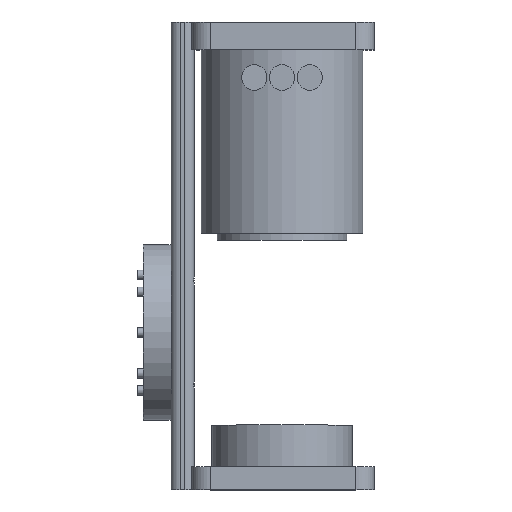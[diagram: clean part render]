
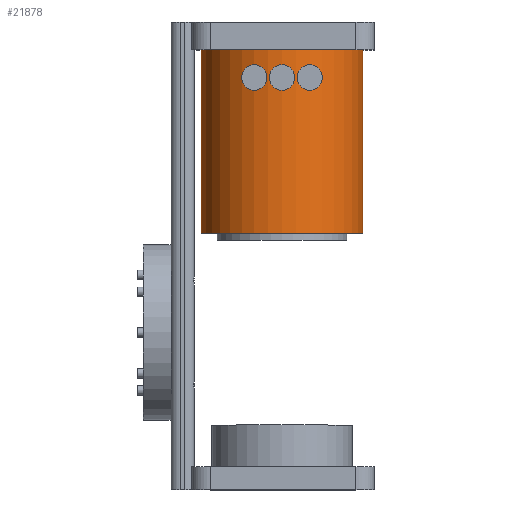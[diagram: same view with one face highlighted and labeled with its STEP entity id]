
A CAD part, top view. The second image highlights one B-rep face of the part: STEP entity #21878.
In plain terms, the highlighted cylindrical face has radius 35 mm (diameter 70 mm), a full revolution.
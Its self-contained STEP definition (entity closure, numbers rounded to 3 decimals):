
#21878 = ADVANCED_FACE('',(#21879),#21892,.T.);
#21879 = FACE_BOUND('',#21880,.T.);
#21880 = EDGE_LOOP('',(#21881,#21915,#21938,#21965));
#21881 = ORIENTED_EDGE('',*,*,#21882,.F.);
#21882 = EDGE_CURVE('',#21883,#21883,#21885,.T.);
#21883 = VERTEX_POINT('',#21884);
#21884 = CARTESIAN_POINT('',(400.,43.,735.));
#21885 = SURFACE_CURVE('',#21886,(#21891,#21903),.PCURVE_S1.);
#21886 = CIRCLE('',#21887,35.);
#21887 = AXIS2_PLACEMENT_3D('',#21888,#21889,#21890);
#21888 = CARTESIAN_POINT('',(400.,43.,700.));
#21889 = DIRECTION('',(0.,-1.,0.));
#21890 = DIRECTION('',(0.,0.,1.));
#21891 = PCURVE('',#21892,#21897);
#21892 = CYLINDRICAL_SURFACE('',#21893,35.);
#21893 = AXIS2_PLACEMENT_3D('',#21894,#21895,#21896);
#21894 = CARTESIAN_POINT('',(400.,122.3,700.));
#21895 = DIRECTION('',(0.,-1.,0.));
#21896 = DIRECTION('',(0.,0.,1.));
#21897 = DEFINITIONAL_REPRESENTATION('',(#21898),#21902);
#21898 = LINE('',#21899,#21900);
#21899 = CARTESIAN_POINT('',(0.,79.3));
#21900 = VECTOR('',#21901,1.);
#21901 = DIRECTION('',(1.,0.));
#21902 = ( GEOMETRIC_REPRESENTATION_CONTEXT(2) 
PARAMETRIC_REPRESENTATION_CONTEXT() REPRESENTATION_CONTEXT('2D SPACE',''
  ) );
#21903 = PCURVE('',#21904,#21909);
#21904 = PLANE('',#21905);
#21905 = AXIS2_PLACEMENT_3D('',#21906,#21907,#21908);
#21906 = CARTESIAN_POINT('',(400.,43.,700.));
#21907 = DIRECTION('',(0.,-1.,0.));
#21908 = DIRECTION('',(0.,0.,1.));
#21909 = DEFINITIONAL_REPRESENTATION('',(#21910),#21914);
#21910 = CIRCLE('',#21911,35.);
#21911 = AXIS2_PLACEMENT_2D('',#21912,#21913);
#21912 = CARTESIAN_POINT('',(0.,0.));
#21913 = DIRECTION('',(1.,0.));
#21914 = ( GEOMETRIC_REPRESENTATION_CONTEXT(2) 
PARAMETRIC_REPRESENTATION_CONTEXT() REPRESENTATION_CONTEXT('2D SPACE',''
  ) );
#21915 = ORIENTED_EDGE('',*,*,#21916,.F.);
#21916 = EDGE_CURVE('',#21917,#21883,#21919,.T.);
#21917 = VERTEX_POINT('',#21918);
#21918 = CARTESIAN_POINT('',(400.,122.3,735.));
#21919 = SEAM_CURVE('',#21920,(#21924,#21931),.PCURVE_S1.);
#21920 = LINE('',#21921,#21922);
#21921 = CARTESIAN_POINT('',(400.,122.3,735.));
#21922 = VECTOR('',#21923,1.);
#21923 = DIRECTION('',(0.,-1.,0.));
#21924 = PCURVE('',#21892,#21925);
#21925 = DEFINITIONAL_REPRESENTATION('',(#21926),#21930);
#21926 = LINE('',#21927,#21928);
#21927 = CARTESIAN_POINT('',(6.283,-0.));
#21928 = VECTOR('',#21929,1.);
#21929 = DIRECTION('',(0.,1.));
#21930 = ( GEOMETRIC_REPRESENTATION_CONTEXT(2) 
PARAMETRIC_REPRESENTATION_CONTEXT() REPRESENTATION_CONTEXT('2D SPACE',''
  ) );
#21931 = PCURVE('',#21892,#21932);
#21932 = DEFINITIONAL_REPRESENTATION('',(#21933),#21937);
#21933 = LINE('',#21934,#21935);
#21934 = CARTESIAN_POINT('',(0.,-0.));
#21935 = VECTOR('',#21936,1.);
#21936 = DIRECTION('',(0.,1.));
#21937 = ( GEOMETRIC_REPRESENTATION_CONTEXT(2) 
PARAMETRIC_REPRESENTATION_CONTEXT() REPRESENTATION_CONTEXT('2D SPACE',''
  ) );
#21938 = ORIENTED_EDGE('',*,*,#21939,.T.);
#21939 = EDGE_CURVE('',#21917,#21917,#21940,.T.);
#21940 = SURFACE_CURVE('',#21941,(#21946,#21953),.PCURVE_S1.);
#21941 = CIRCLE('',#21942,35.);
#21942 = AXIS2_PLACEMENT_3D('',#21943,#21944,#21945);
#21943 = CARTESIAN_POINT('',(400.,122.3,700.));
#21944 = DIRECTION('',(0.,-1.,0.));
#21945 = DIRECTION('',(0.,0.,1.));
#21946 = PCURVE('',#21892,#21947);
#21947 = DEFINITIONAL_REPRESENTATION('',(#21948),#21952);
#21948 = LINE('',#21949,#21950);
#21949 = CARTESIAN_POINT('',(0.,0.));
#21950 = VECTOR('',#21951,1.);
#21951 = DIRECTION('',(1.,0.));
#21952 = ( GEOMETRIC_REPRESENTATION_CONTEXT(2) 
PARAMETRIC_REPRESENTATION_CONTEXT() REPRESENTATION_CONTEXT('2D SPACE',''
  ) );
#21953 = PCURVE('',#21954,#21959);
#21954 = PLANE('',#21955);
#21955 = AXIS2_PLACEMENT_3D('',#21956,#21957,#21958);
#21956 = CARTESIAN_POINT('',(400.,122.3,700.));
#21957 = DIRECTION('',(0.,-1.,0.));
#21958 = DIRECTION('',(0.,0.,1.));
#21959 = DEFINITIONAL_REPRESENTATION('',(#21960),#21964);
#21960 = CIRCLE('',#21961,35.);
#21961 = AXIS2_PLACEMENT_2D('',#21962,#21963);
#21962 = CARTESIAN_POINT('',(0.,0.));
#21963 = DIRECTION('',(1.,0.));
#21964 = ( GEOMETRIC_REPRESENTATION_CONTEXT(2) 
PARAMETRIC_REPRESENTATION_CONTEXT() REPRESENTATION_CONTEXT('2D SPACE',''
  ) );
#21965 = ORIENTED_EDGE('',*,*,#21916,.T.);
